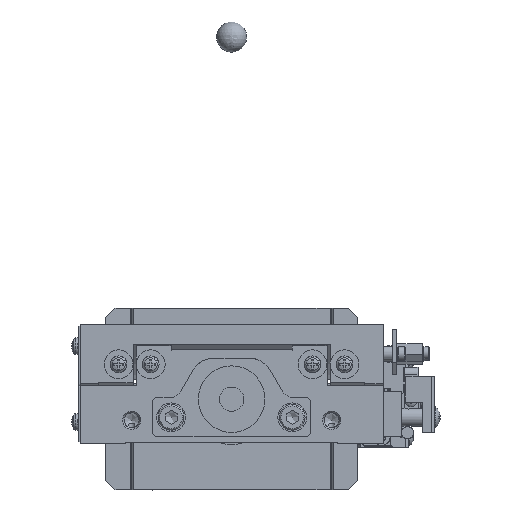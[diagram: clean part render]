
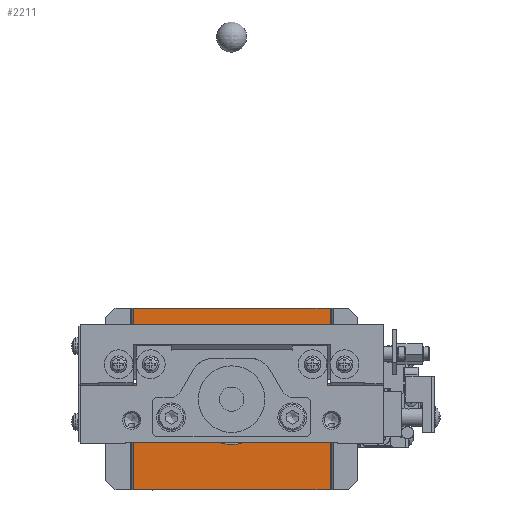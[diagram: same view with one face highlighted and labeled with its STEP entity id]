
A CAD part, left-side view. The second image highlights one B-rep face of the part: STEP entity #2211.
In plain terms, the highlighted planar face has unit normal (-1, 0, 0).
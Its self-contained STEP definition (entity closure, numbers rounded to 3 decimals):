
#2211=ADVANCED_FACE('',(#24140,#24141),#24139,.T.);
#24139=PLANE('',#47962);
#24140=FACE_OUTER_BOUND('',#47963,.T.);
#24141=FACE_BOUND('',#47964,.T.);
#47959=CARTESIAN_POINT('',(86.,-39.,50.5));
#47960=DIRECTION('',(-1.,0.,0.));
#47961=DIRECTION('',(0.,1.,0.));
#47962=AXIS2_PLACEMENT_3D('',#47959,#47960,#47961);
#47963=EDGE_LOOP('',(#66204,#66205,#66206,#66207,#66208,#66209,#66210,#66211,#66212,#66213,#66214,#66215,#66216,#66217));
#47964=EDGE_LOOP('',(#66218,#66219));
#66204=ORIENTED_EDGE('',*,*,#77047,.F.);
#66205=ORIENTED_EDGE('',*,*,#77048,.T.);
#66206=ORIENTED_EDGE('',*,*,#77049,.T.);
#66207=ORIENTED_EDGE('',*,*,#77050,.F.);
#66208=ORIENTED_EDGE('',*,*,#77051,.F.);
#66209=ORIENTED_EDGE('',*,*,#77052,.T.);
#66210=ORIENTED_EDGE('',*,*,#77053,.T.);
#66211=ORIENTED_EDGE('',*,*,#77054,.T.);
#66212=ORIENTED_EDGE('',*,*,#77055,.T.);
#66213=ORIENTED_EDGE('',*,*,#77056,.T.);
#66214=ORIENTED_EDGE('',*,*,#77057,.T.);
#66215=ORIENTED_EDGE('',*,*,#77058,.T.);
#66216=ORIENTED_EDGE('',*,*,#77059,.F.);
#66217=ORIENTED_EDGE('',*,*,#77060,.T.);
#66218=ORIENTED_EDGE('',*,*,#77061,.T.);
#66219=ORIENTED_EDGE('',*,*,#77062,.T.);
#77047=EDGE_CURVE('',#116741,#116742,#116743,.T.);
#77048=EDGE_CURVE('',#116741,#116749,#116750,.T.);
#77049=EDGE_CURVE('',#116749,#116756,#116757,.T.);
#77050=EDGE_CURVE('',#116763,#116756,#116764,.T.);
#77051=EDGE_CURVE('',#116770,#116763,#116771,.T.);
#77052=EDGE_CURVE('',#116770,#116777,#116778,.T.);
#77053=EDGE_CURVE('',#116777,#116784,#116785,.T.);
#77054=EDGE_CURVE('',#116784,#116791,#116792,.T.);
#77055=EDGE_CURVE('',#116791,#116798,#116799,.T.);
#77056=EDGE_CURVE('',#116798,#116805,#116806,.T.);
#77057=EDGE_CURVE('',#116805,#116812,#116813,.T.);
#77058=EDGE_CURVE('',#116812,#116819,#116820,.T.);
#77059=EDGE_CURVE('',#116826,#116819,#116827,.T.);
#77060=EDGE_CURVE('',#116826,#116742,#116833,.T.);
#77061=EDGE_CURVE('',#116839,#116840,#116841,.T.);
#77062=EDGE_CURVE('',#116840,#116839,#116847,.T.);
#116741=VERTEX_POINT('',#157720);
#116742=VERTEX_POINT('',#157721);
#116743=LINE('',#157722,#157723);
#116749=VERTEX_POINT('',#157725);
#116750=CIRCLE('',#157729,6.);
#116756=VERTEX_POINT('',#157730);
#116757=CIRCLE('',#157734,6.);
#116763=VERTEX_POINT('',#157735);
#116764=LINE('',#157736,#157737);
#116770=VERTEX_POINT('',#157739);
#116771=LINE('',#157740,#157741);
#116777=VERTEX_POINT('',#157743);
#116778=LINE('',#157744,#157745);
#116784=VERTEX_POINT('',#157747);
#116785=CIRCLE('',#157751,6.);
#116791=VERTEX_POINT('',#157752);
#116792=LINE('',#157753,#157754);
#116798=VERTEX_POINT('',#157756);
#116799=CIRCLE('',#157760,4.5);
#116805=VERTEX_POINT('',#157761);
#116806=CIRCLE('',#157765,4.5);
#116812=VERTEX_POINT('',#157766);
#116813=LINE('',#157767,#157768);
#116819=VERTEX_POINT('',#157770);
#116820=LINE('',#157771,#157772);
#116826=VERTEX_POINT('',#157774);
#116827=LINE('',#157775,#157776);
#116833=CIRCLE('',#157781,4.5);
#116839=VERTEX_POINT('',#157782);
#116840=VERTEX_POINT('',#157783);
#116841=CIRCLE('',#157787,15.);
#116847=CIRCLE('',#157791,15.);
#157720=CARTESIAN_POINT('',(86.,32.5,13.479));
#157721=CARTESIAN_POINT('',(86.,32.5,19.528));
#157722=CARTESIAN_POINT('',(86.,32.5,13.479));
#157723=VECTOR('',#157724,6.049);
#157724=DIRECTION('',(0.,0.,1.));
#157725=CARTESIAN_POINT('',(86.,27.,7.5));
#157726=CARTESIAN_POINT('',(86.,33.,7.5));
#157727=DIRECTION('',(1.,0.,0.));
#157728=DIRECTION('',(0.,1.,0.));
#157729=AXIS2_PLACEMENT_3D('',#157726,#157727,#157728);
#157730=CARTESIAN_POINT('',(86.,32.5,1.521));
#157731=CARTESIAN_POINT('',(86.,33.,7.5));
#157732=DIRECTION('',(1.,0.,0.));
#157733=DIRECTION('',(0.,1.,0.));
#157734=AXIS2_PLACEMENT_3D('',#157731,#157732,#157733);
#157735=CARTESIAN_POINT('',(86.,32.5,-15.5));
#157736=CARTESIAN_POINT('',(86.,32.5,-15.5));
#157737=VECTOR('',#157738,17.021);
#157738=DIRECTION('',(0.,0.,1.));
#157739=CARTESIAN_POINT('',(86.,-32.5,-15.5));
#157740=CARTESIAN_POINT('',(86.,-32.5,-15.5));
#157741=VECTOR('',#157742,65.);
#157742=DIRECTION('',(0.,1.,0.));
#157743=CARTESIAN_POINT('',(86.,-32.5,1.521));
#157744=CARTESIAN_POINT('',(86.,-32.5,-15.5));
#157745=VECTOR('',#157746,17.021);
#157746=DIRECTION('',(0.,0.,1.));
#157747=CARTESIAN_POINT('',(86.,-32.5,13.479));
#157748=CARTESIAN_POINT('',(86.,-33.,7.5));
#157749=DIRECTION('',(1.,0.,0.));
#157750=DIRECTION('',(0.,0.083,-0.997));
#157751=AXIS2_PLACEMENT_3D('',#157748,#157749,#157750);
#157752=CARTESIAN_POINT('',(86.,-32.5,19.528));
#157753=CARTESIAN_POINT('',(86.,-32.5,13.479));
#157754=VECTOR('',#157755,6.049);
#157755=DIRECTION('',(0.,0.,1.));
#157756=CARTESIAN_POINT('',(86.,-27.5,24.));
#157757=CARTESIAN_POINT('',(86.,-32.,24.));
#157758=DIRECTION('',(1.,0.,0.));
#157759=DIRECTION('',(0.,-0.111,-0.994));
#157760=AXIS2_PLACEMENT_3D('',#157757,#157758,#157759);
#157761=CARTESIAN_POINT('',(86.,-32.5,28.472));
#157762=CARTESIAN_POINT('',(86.,-32.,24.));
#157763=DIRECTION('',(1.,0.,0.));
#157764=DIRECTION('',(0.,-0.111,-0.994));
#157765=AXIS2_PLACEMENT_3D('',#157762,#157763,#157764);
#157766=CARTESIAN_POINT('',(86.,-32.5,44.5));
#157767=CARTESIAN_POINT('',(86.,-32.5,28.472));
#157768=VECTOR('',#157769,16.028);
#157769=DIRECTION('',(0.,0.,1.));
#157770=CARTESIAN_POINT('',(86.,32.5,44.5));
#157771=CARTESIAN_POINT('',(86.,-32.5,44.5));
#157772=VECTOR('',#157773,65.);
#157773=DIRECTION('',(0.,1.,0.));
#157774=CARTESIAN_POINT('',(86.,32.5,28.472));
#157775=CARTESIAN_POINT('',(86.,32.5,28.472));
#157776=VECTOR('',#157777,16.028);
#157777=DIRECTION('',(0.,0.,1.));
#157778=CARTESIAN_POINT('',(86.,32.,24.));
#157779=DIRECTION('',(1.,0.,0.));
#157780=DIRECTION('',(0.,1.,0.));
#157781=AXIS2_PLACEMENT_3D('',#157778,#157779,#157780);
#157782=CARTESIAN_POINT('',(86.,-15.,14.5));
#157783=CARTESIAN_POINT('',(86.,15.,14.5));
#157784=CARTESIAN_POINT('',(86.,0.,14.5));
#157785=DIRECTION('',(1.,0.,0.));
#157786=DIRECTION('',(0.,-1.,0.));
#157787=AXIS2_PLACEMENT_3D('',#157784,#157785,#157786);
#157788=CARTESIAN_POINT('',(86.,0.,14.5));
#157789=DIRECTION('',(1.,0.,0.));
#157790=DIRECTION('',(0.,-1.,0.));
#157791=AXIS2_PLACEMENT_3D('',#157788,#157789,#157790);
